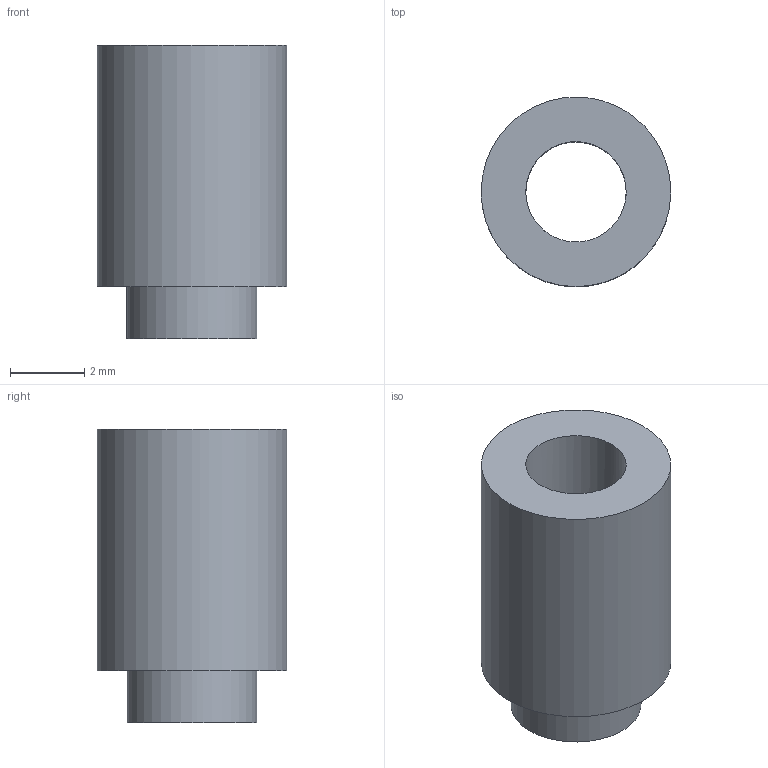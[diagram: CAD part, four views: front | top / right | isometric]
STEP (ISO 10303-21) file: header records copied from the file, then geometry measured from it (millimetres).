
FILE_DESCRIPTION(('FreeCAD Model'),'2;1');
FILE_NAME('Open CASCADE Shape Model','2026-03-20T17:23:19',('Author'),( ''),'Open CASCADE STEP processor 7.8','FreeCAD','Unknown');
FILE_SCHEMA(('AP242_MANAGED_MODEL_BASED_3D_ENGINEERING_MIM_LF. {1 0 10303 442 1 1 4 }'));
Length unit declared in the file: millimetre
Products named in the file (1): 1_transformed
Bounding box: 5.1 x 5.1 x 7.9 mm (x, y, z)
Volume: 101.9 mm3; surface area: 216.5 mm2
Topology: 1 solids, 1 shells, 6 faces, 10 edges, 7 vertices
Faces by surface type: bspline 6
Entity records: 209 total; most frequent: CARTESIAN_POINT 113, ORIENTED_EDGE 20, EDGE_CURVE 10, FACE_BOUND 9, EDGE_LOOP 9, VERTEX_POINT 7, ADVANCED_FACE 6, B_SPLINE_SURFACE_WITH_KNOTS 3
